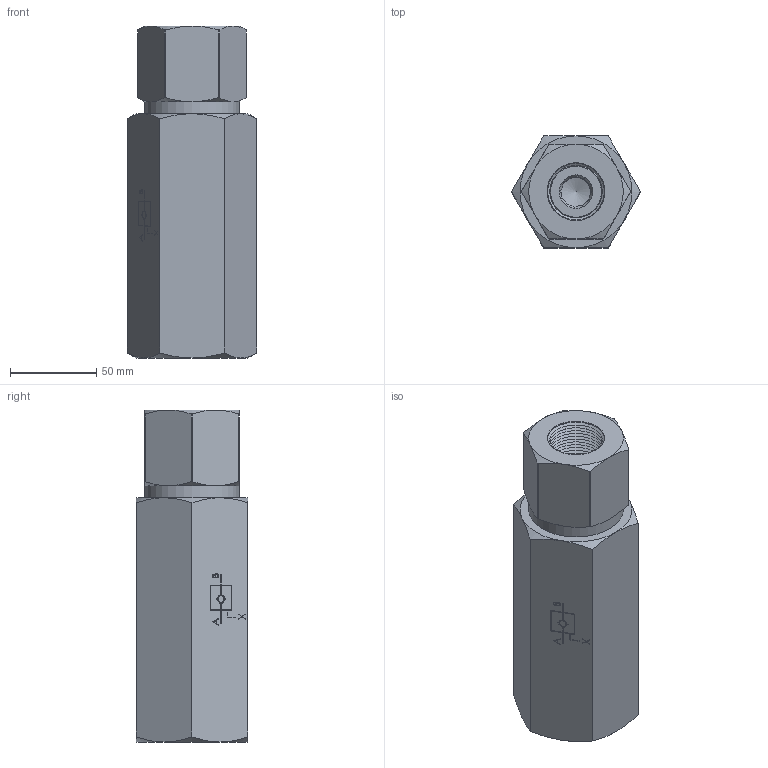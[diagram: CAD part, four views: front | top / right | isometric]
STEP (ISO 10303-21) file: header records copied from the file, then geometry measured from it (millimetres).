
FILE_DESCRIPTION (( 'STEP AP214' ), '1' );
FILE_NAME ('2257-7-100.STEP', '2025-01-23T10:54:45', ( '' ), ( '' ), 'SwSTEP 2.0', 'SolidWorks 2024', '' );
FILE_SCHEMA (( 'AUTOMOTIVE_DESIGN' ));
Length unit declared in the file: millimetre
Products named in the file (9): PISTONE PILOTAGGIO 2257-7.019.00.0-100; MOLLA 2 BAR  257-6.009.00.0-100_COMPRESSA; OR 149; FONDELLO FILETTATO 2257-5.010.00.0-100; CONNESSIONE UNIDIREZIONALE 2257-7.033.00.0-100; ASSIEME 2257-7.041.00.0-100; 2257-7-100; CORPO VALVOLA 2257-7.001.00.0-100; VALVOLA TENUTA METALLICA 2257-5.008.00.0-100
Assembly tree (8 placements, depth 3):
  2257-7-100
    ASSIEME 2257-7.041.00.0-100
      CONNESSIONE UNIDIREZIONALE 2257-7.033.00.0-100
      FONDELLO FILETTATO 2257-5.010.00.0-100
      VALVOLA TENUTA METALLICA 2257-5.008.00.0-100
      MOLLA 2 BAR  257-6.009.00.0-100_COMPRESSA
    CORPO VALVOLA 2257-7.001.00.0-100
    PISTONE PILOTAGGIO 2257-7.019.00.0-100
    OR 149
Bounding box: 75.06 x 65 x 193 mm (x, y, z)
Volume: 534767.8 mm3; surface area: 125850.8 mm2
Topology: 7 solids, 7 shells, 742 faces, 1755 edges, 1095 vertices
Faces by surface type: plane 311, cone 260, cylinder 95, bspline 73, torus 3
Full cylindrical faces by diameter (mm): 3.992 x1, 6.5 x6, 8 x1, 9 x4, 18 x3, 18.7 x1, 19 x1, 22.5 x1, 23 x5, 23.3 x1, 24 x8, 26 x1, 28.8 x6, 29.5 x8, 30.5 x1, 32 x1, 34 x1, 38 x1, 43.2 x5, 44 x7, 44.6 x1, 46 x3, 55 x1
Entity records: 26435 total; most frequent: CARTESIAN_POINT 11008, DIRECTION 2926, ORIENTED_EDGE 2818, EDGE_CURVE 1409, EDGE_LOOP 1132, AXIS2_PLACEMENT_3D 1113, VERTEX_POINT 1045, FACE_OUTER_BOUND 812
